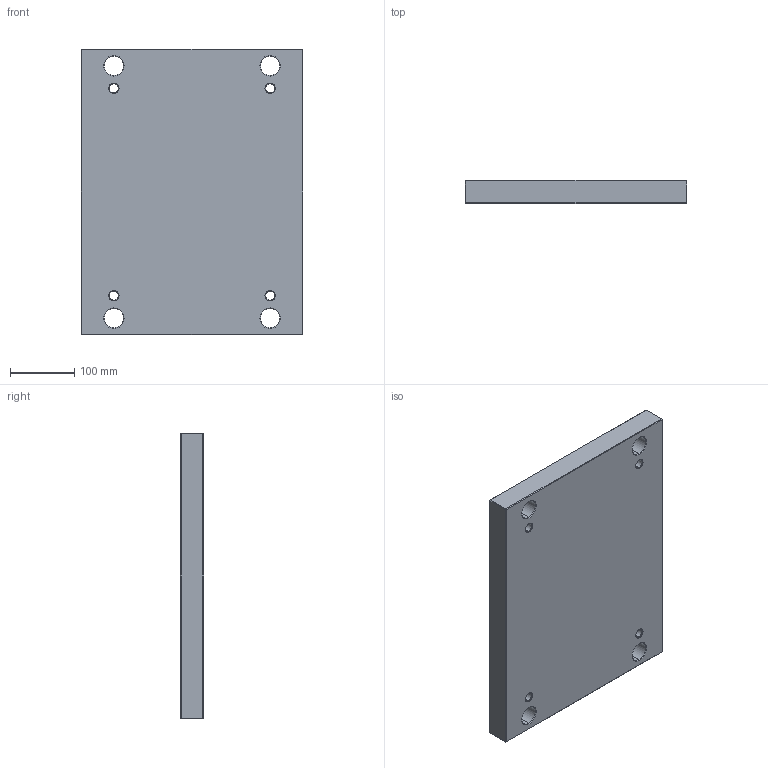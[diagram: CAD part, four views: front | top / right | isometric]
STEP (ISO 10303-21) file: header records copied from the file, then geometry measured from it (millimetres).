
FILE_DESCRIPTION (( 'STEP AP214' ), '1' );
FILE_NAME ('PBA-EU-296x446x36.STEP', '2020-03-10T15:44:14', ( 'August' ), ( '' ), 'SwSTEP 2.0', 'SolidWorks 2018', '' );
FILE_SCHEMA (( 'AUTOMOTIVE_DESIGN' ));
Length unit declared in the file: millimetre
Products named in the file (1): PBA-EU-296x446x36
Bounding box: 346 x 36 x 446 mm (x, y, z)
Volume: 5420190.9 mm3; surface area: 377116.1 mm2
Topology: 1 solids, 1 shells, 86 faces, 184 edges, 104 vertices
Faces by surface type: cone 32, plane 30, cylinder 24
Entity records: 2346 total; most frequent: DIRECTION 438, CARTESIAN_POINT 375, ORIENTED_EDGE 368, EDGE_CURVE 184, AXIS2_PLACEMENT_3D 167, EDGE_LOOP 106, VERTEX_POINT 104, VECTOR 104
